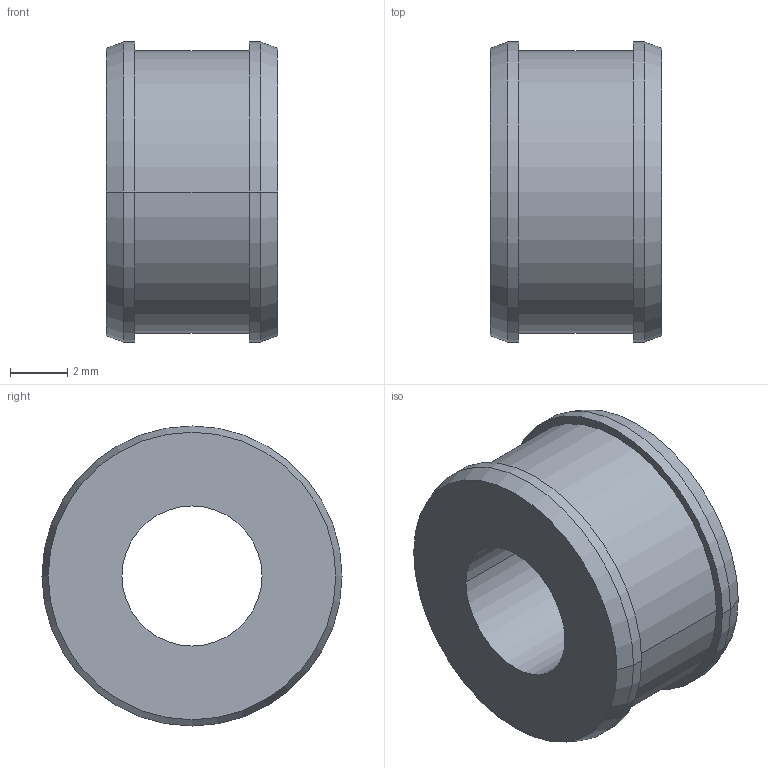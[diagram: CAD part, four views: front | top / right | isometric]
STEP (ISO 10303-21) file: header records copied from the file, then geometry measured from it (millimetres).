
FILE_DESCRIPTION((''),'2;1');
FILE_NAME('0000237157_PRT','2025-11-12T18:34:12',('Wyndorps'),(''),'CREO PARAMETRIC BY PTC INC, 2025010','CREO PARAMETRIC BY PTC INC, 2025010','');
FILE_SCHEMA(('CONFIG_CONTROL_DESIGN'));
Length unit declared in the file: millimetre
Products named in the file (1): 0000237157_PRT
Bounding box: 6 x 10.5 x 10.5 mm (x, y, z)
Volume: 363.7 mm3; surface area: 425 mm2
Topology: 1 solids, 1 shells, 16 faces, 32 edges, 20 vertices
Faces by surface type: cylinder 8, plane 4, cone 4
Entity records: 466 total; most frequent: DIRECTION 84, CARTESIAN_POINT 68, ORIENTED_EDGE 64, AXIS2_PLACEMENT_3D 36, EDGE_CURVE 32, VERTEX_POINT 20, EDGE_LOOP 20, CIRCLE 20
